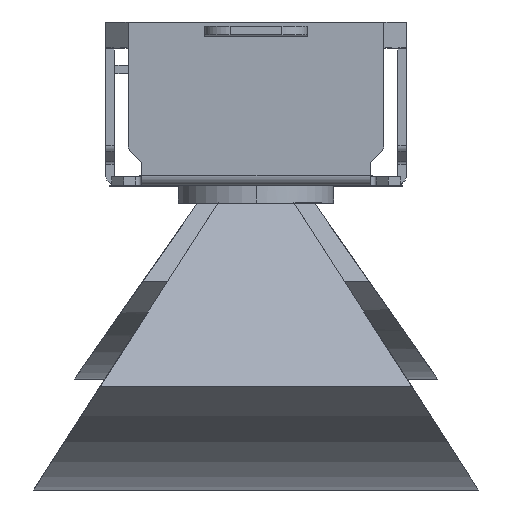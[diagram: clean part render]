
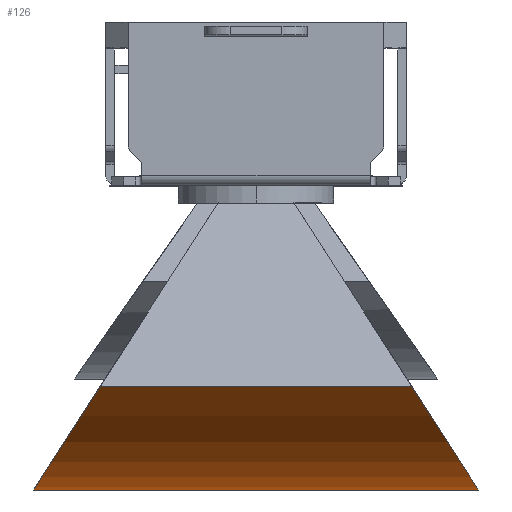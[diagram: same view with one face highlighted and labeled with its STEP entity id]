
A CAD part, left-side view. The second image highlights one B-rep face of the part: STEP entity #126.
In plain terms, the highlighted cylindrical face has radius 20 mm (diameter 40 mm), a partial arc.
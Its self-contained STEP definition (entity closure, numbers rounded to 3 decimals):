
#13=CARTESIAN_POINT('',(0.,12.864,25.599));
#14=CARTESIAN_POINT('',(1.472,12.864,25.599));
#15=CARTESIAN_POINT('',(4.237,12.66,25.281));
#16=CARTESIAN_POINT('',(7.975,11.884,24.075));
#17=CARTESIAN_POINT('',(11.348,10.689,22.218));
#18=CARTESIAN_POINT('',(13.354,9.615,20.548));
#19=CARTESIAN_POINT('',(14.289,9.001,19.592));
#21=DIRECTION('',(0.,-1.,0.));
#22=VECTOR('',#21,18.002);
#23=CARTESIAN_POINT('',(14.289,9.001,19.592));
#24=LINE('',#23,#22);
#25=CARTESIAN_POINT('',(14.289,-9.001,19.592));
#26=CARTESIAN_POINT('',(13.354,-9.615,20.548));
#27=CARTESIAN_POINT('',(11.348,-10.689,22.218));
#28=CARTESIAN_POINT('',(7.975,-11.884,24.075));
#29=CARTESIAN_POINT('',(4.237,-12.66,25.281));
#30=CARTESIAN_POINT('',(1.472,-12.864,25.599));
#31=CARTESIAN_POINT('',(0.,-12.864,25.599));
#53=DIRECTION('',(0.,-1.,0.));
#54=VECTOR('',#53,25.729);
#55=CARTESIAN_POINT('',(0.,12.864,25.599));
#56=LINE('',#55,#54);
#77=CARTESIAN_POINT('',(14.289,9.001,19.592));
#78=CARTESIAN_POINT('',(14.289,-9.001,19.592));
#79=VERTEX_POINT('',#77);
#80=VERTEX_POINT('',#78);
#85=CARTESIAN_POINT('',(0.,12.864,25.599));
#86=CARTESIAN_POINT('',(0.,-12.864,25.599));
#87=VERTEX_POINT('',#85);
#88=VERTEX_POINT('',#86);
#112=CARTESIAN_POINT('',(0.,0.,5.599));
#113=DIRECTION('',(0.,1.,0.));
#114=DIRECTION('',(0.,0.,1.));
#115=AXIS2_PLACEMENT_3D('',#112,#113,#114);
#116=CYLINDRICAL_SURFACE('',#115,20.);
#118=ORIENTED_EDGE('',*,*,#117,.F.);
#120=ORIENTED_EDGE('',*,*,#119,.T.);
#121=ORIENTED_EDGE('',*,*,#101,.T.);
#123=ORIENTED_EDGE('',*,*,#122,.T.);
#124=EDGE_LOOP('',(#118,#120,#121,#123));
#125=FACE_OUTER_BOUND('',#124,.F.);
#126=ADVANCED_FACE('',(#125),#116,.T.);
#20=B_SPLINE_CURVE_WITH_KNOTS('',3,(#13,#14,#15,#16,#17,#18,#19),.UNSPECIFIED.,
.F.,.F.,(4,1,1,1,4),(0.,0.25,0.5,0.75,1.),.UNSPECIFIED.);
#32=B_SPLINE_CURVE_WITH_KNOTS('',3,(#25,#26,#27,#28,#29,#30,#31),.UNSPECIFIED.,
.F.,.F.,(4,1,1,1,4),(0.,0.25,0.5,0.75,1.),.UNSPECIFIED.);
#101=EDGE_CURVE('',#79,#80,#24,.T.);
#117=EDGE_CURVE('',#87,#88,#56,.T.);
#119=EDGE_CURVE('',#87,#79,#20,.T.);
#122=EDGE_CURVE('',#80,#88,#32,.T.);
